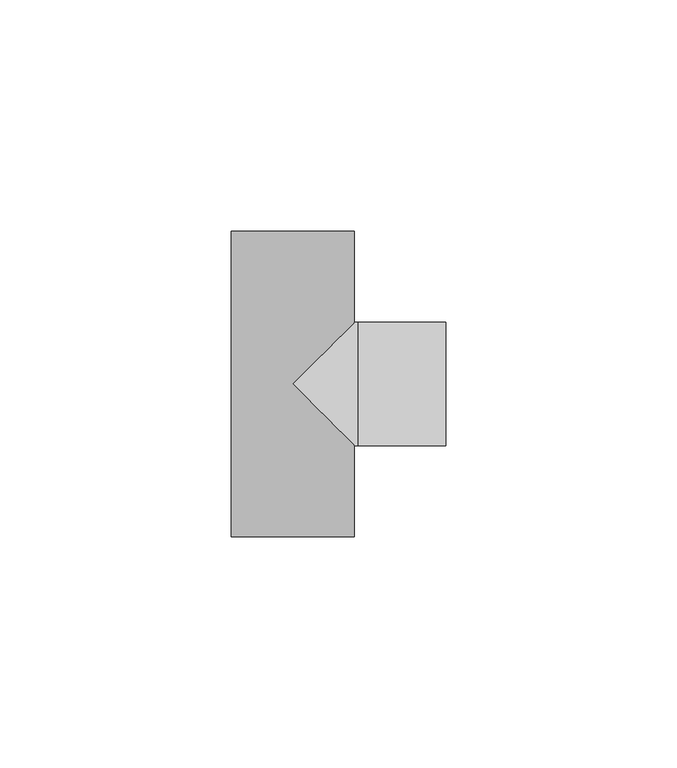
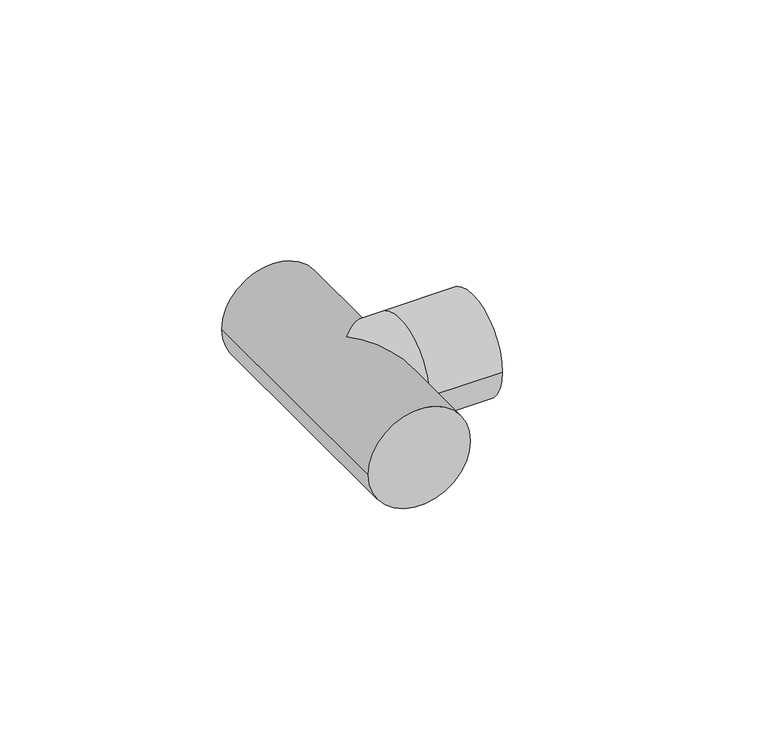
"""IFC4 building model written with IfcOpenShell, lengths in millimetres: pipe fitting geometry, 01051003 : Tes 90º."""

import ifcopenshell
import ifcopenshell.guid

model = None  # the IFC model being written
_history = None  # IfcOwnerHistory: only IFC2X3 demands one
_inside = {}  # id of a spatial element -> (the spatial element, [elements in it])
_under = {}  # id of a project, library or spatial element -> (it, [spatial elements below it])
_declared = {}  # id of a project -> (the project, [libraries it declares])
_typed = {}  # id of a type object -> (the type object, [elements of that type])
_made_of = {}  # id of a material, layer set ... -> (it, [elements and type objects made of it])


def new_model(schema):
    """Start an empty IFC model of exactly this schema.

    Asked for "IFC4X3", IfcOpenShell would pick the latest addendum, in which some entities
    have other attributes; the version numbers below select the first issue.
    IFC2X3 requires an IfcOwnerHistory on every rooted entity: one is made here for all.
    """
    global model, _history
    if schema == "IFC4X3":
        model = ifcopenshell.file(schema_version=(4, 3, 0, 0))
    else:
        model = ifcopenshell.file(schema=schema)
    _inside.clear()
    _under.clear()
    _declared.clear()
    _typed.clear()
    _made_of.clear()
    _history = None
    if model.schema == "IFC2X3":
        org = make("IfcOrganization", Name="unknown")
        user = make(
            "IfcPersonAndOrganization",
            ThePerson=make("IfcPerson", FamilyName="unknown"),
            TheOrganization=org,
        )
        app = make(
            "IfcApplication",
            ApplicationDeveloper=org,
            Version="unknown",
            ApplicationFullName="unknown",
            ApplicationIdentifier="unknown",
        )
        _history = make(
            "IfcOwnerHistory",
            OwningUser=user,
            OwningApplication=app,
            ChangeAction="ADDED",
            CreationDate=0,
        )
    return model


def make(cls, **values):
    """One entity of the class cls with the attributes given. An attribute that is None is left unset."""
    return model.create_entity(
        cls, **{name: value for name, value in values.items() if value is not None}
    )


def rooted(cls, **values):
    """An entity with a GlobalId (a new one), such as an element, a storey or a relation."""
    return make(cls, GlobalId=ifcopenshell.guid.new(), OwnerHistory=_history, **values)


def si_unit(unit_type, name, prefix=None):
    """IfcSIUnit, for example si_unit("LENGTHUNIT", "METRE", prefix="MILLI")."""
    return make("IfcSIUnit", UnitType=unit_type, Prefix=prefix, Name=name)


def assignment(units):
    """IfcUnitAssignment: the units of a project."""
    return None if units is None else make("IfcUnitAssignment", Units=units)


def point(xyz):
    """IfcCartesianPoint."""
    return None if xyz is None else make("IfcCartesianPoint", Coordinates=xyz)


def direction(xyz):
    """IfcDirection."""
    return None if xyz is None else make("IfcDirection", DirectionRatios=xyz)


def frame(location, z_axis=None, x_axis=None):
    """IfcAxis2Placement3D, a coordinate frame: its origin and axes. An axis left out is left unset."""
    return make(
        "IfcAxis2Placement3D",
        Location=point(location),
        Axis=direction(z_axis),
        RefDirection=direction(x_axis),
    )


def origin():
    """The frame at (0, 0, 0) with its axes left unset."""
    return frame((0.0, 0.0, 0.0))


def place(relative_to, where):
    """IfcLocalPlacement: puts the frame where relative to a parent placement (None: the world)."""
    return make(
        "IfcLocalPlacement", PlacementRelTo=relative_to, RelativePlacement=where
    )


def context(
    kind, dimensions, precision=None, world=None, true_north=None, identifier=None
):
    """IfcGeometricRepresentationContext, for example the 3D "Model" context."""
    return make(
        "IfcGeometricRepresentationContext",
        ContextIdentifier=identifier,
        ContextType=kind,
        CoordinateSpaceDimension=dimensions,
        Precision=precision,
        WorldCoordinateSystem=world,
        TrueNorth=true_north,
    )


def project(units=None, contexts=None):
    """IfcProject with its units and contexts."""
    return rooted(
        "IfcProject",
        Name="project",
        RepresentationContexts=contexts,
        UnitsInContext=assignment(units),
    )


def spatial(cls, under=None, at=None, **own):
    """A site, building, storey or space (cls), placed at a placement, below another one or the project."""
    s = rooted(cls, ObjectPlacement=at, **own)
    if under is not None:
        _under.setdefault(under.id(), (under, []))[1].append(s)
    return s


def circle_curve(where, radius):
    """IfcCircle in the frame where."""
    return make("IfcCircle", Position=where, Radius=radius)


def ellipse_curve(where, semi_axis1, semi_axis2):
    """IfcEllipse in the frame where."""
    return make(
        "IfcEllipse", Position=where, SemiAxis1=semi_axis1, SemiAxis2=semi_axis2
    )


def shape(context_of_items, identifier, shape_type, items):
    """IfcShapeRepresentation: the items that make up one representation, for example the "Body"."""
    return make(
        "IfcShapeRepresentation",
        ContextOfItems=context_of_items,
        RepresentationIdentifier=identifier,
        RepresentationType=shape_type,
        Items=items,
    )


def source(mapping_origin, context_of_items, identifier, shape_type, items):
    """IfcRepresentationMap: a shape defined once, which mapped items show again and again."""
    return make(
        "IfcRepresentationMap",
        MappingOrigin=mapping_origin,
        MappedRepresentation=shape(context_of_items, identifier, shape_type, items),
    )


def transform(
    local_origin,
    x_axis=None,
    y_axis=None,
    z_axis=None,
    scale=None,
    scale2=None,
    scale3=None,
    uniform=True,
):
    """IfcCartesianTransformationOperator3D, or its non-uniform kind. x_axis, y_axis, z_axis: its Axis1, 2, 3."""
    if uniform:
        return make(
            "IfcCartesianTransformationOperator3D",
            Axis1=direction(x_axis),
            Axis2=direction(y_axis),
            LocalOrigin=point(local_origin),
            Scale=scale,
            Axis3=direction(z_axis),
        )
    return make(
        "IfcCartesianTransformationOperator3DnonUniform",
        Axis1=direction(x_axis),
        Axis2=direction(y_axis),
        LocalOrigin=point(local_origin),
        Scale=scale,
        Axis3=direction(z_axis),
        Scale2=scale2,
        Scale3=scale3,
    )


def mapped(mapping_source, mapping_target):
    """IfcMappedItem: shows the shape of a source again, moved by a transform."""
    return make(
        "IfcMappedItem", MappingSource=mapping_source, MappingTarget=mapping_target
    )


def made_of(thing, what):
    """Note that an element or type object is made of a material, layer set ...; save() writes the relation."""
    if what is not None:
        _made_of.setdefault(what.id(), (what, []))[1].append(thing)
    return thing


def element(
    cls,
    number,
    at=None,
    inside=None,
    cuts=None,
    type_object=None,
    material=None,
    context=None,
    identifier="Body",
    shape_type=None,
    held_by="IfcProductDefinitionShape",
    body=None,
    shapes=None,
    **own,
):
    """One element of the class cls, such as IfcWall. Its Tag is "e" and its number.

    at: its placement. inside: the storey or other place that contains it. cuts: it is an
    opening in that element (IfcRelVoidsElement). A single representation is given by context,
    identifier, shape_type and body (its items); several are given by shapes. held_by: the class
    of the entity that holds the representations. save() writes the other relations.
    """
    e = rooted(cls, Tag="e%d" % number, ObjectPlacement=at, **own)
    if body is not None:
        shapes = [shape(context, identifier, shape_type, body)]
    if shapes is not None:
        e.Representation = make(held_by, Representations=shapes)
    if inside is not None:
        _inside.setdefault(inside.id(), (inside, []))[1].append(e)
    if cuts is not None:
        rooted(
            "IfcRelVoidsElement", RelatingBuildingElement=cuts, RelatedOpeningElement=e
        )
    if type_object is not None:
        _typed.setdefault(type_object.id(), (type_object, []))[1].append(e)
    return made_of(e, material)


def aggregate(whole, parts):
    """IfcRelAggregates: a whole, such as a stair, and the parts it consists of."""
    return rooted("IfcRelAggregates", RelatingObject=whole, RelatedObjects=parts)


def save(model, path):
    """Write the relations noted so far, then the file.

    IfcRelAggregates (storeys below a building ...), IfcRelContainedInSpatialStructure (elements
    in a storey), IfcRelDefinesByType, IfcRelAssociatesMaterial and IfcRelDeclares: one each for
    every whole, place, type object, material and project.
    """
    for whole, parts in _under.values():
        aggregate(whole, parts)
    for where, things in _inside.values():
        rooted(
            "IfcRelContainedInSpatialStructure",
            RelatedElements=things,
            RelatingStructure=where,
        )
    for kind, things in _typed.values():
        rooted("IfcRelDefinesByType", RelatedObjects=things, RelatingType=kind)
    for what, things in _made_of.values():
        rooted("IfcRelAssociatesMaterial", RelatedObjects=things, RelatingMaterial=what)
    for by, libraries in _declared.values():
        rooted("IfcRelDeclares", RelatingContext=by, RelatedDefinitions=libraries)
    model.write(path)


def plane_surface(at):
    """IfcPlane: the flat surface through the origin of the frame at, square to its z axis."""
    return make("IfcPlane", Position=at)


def cylinder_surface(at, radius):
    """IfcCylindricalSurface: all points at the distance radius from the z axis of the frame at."""
    return make("IfcCylindricalSurface", Position=at, Radius=radius)


def advanced_brep(points, edges, surfaces, faces):
    """IfcAdvancedBrep: a solid bounded by faces that lie on surfaces and meet in shared edges.

    An edge is (start, end): straight between two places in points (the first is 0);
    or (start, end, curve); or (start, end, curve, False) where it runs against its curve.
    A face is (place in surfaces, loops), or (place, loops, False) where it looks against
    its surface's normal. A loop lists edges by number (the first is 1), with a minus sign
    where the edge is run from its end to its start. The first loop is the outer one.
    """
    corners = [point(p) for p in points]
    vertices = [make("IfcVertexPoint", VertexGeometry=c) for c in corners]
    made = []
    for start, end, *more in edges:
        made.append(
            make(
                "IfcEdgeCurve",
                EdgeStart=vertices[start],
                EdgeEnd=vertices[end],
                EdgeGeometry=more[0] if more else make("IfcPolyline", Points=[corners[start], corners[end]]),
                SameSense=more[1] if len(more) > 1 else True,
            )
        )
    hull = []
    for where, loops, *sense in faces:
        bounds = []
        for j, loop in enumerate(loops):
            ring = [make("IfcOrientedEdge", EdgeElement=made[abs(k) - 1], Orientation=k > 0) for k in loop]
            bounds.append(
                make(
                    "IfcFaceOuterBound" if j == 0 else "IfcFaceBound",
                    Bound=make("IfcEdgeLoop", EdgeList=ring),
                    Orientation=True,
                )
            )
        hull.append(make("IfcAdvancedFace", Bounds=bounds, FaceSurface=surfaces[where], SameSense=sense[0] if sense else True))
    return make("IfcAdvancedBrep", Outer=make("IfcClosedShell", CfsFaces=hull))


def pipe_fitting_c8f179ba(model_context):
    return source(origin(), model_context, "Body", "AdvancedBrep", [
        advanced_brep(
        [(-13.3, 33.0, 0.0), (13.3, 33.0, 0.0), (-13.3, -33.0, 0.0), (13.3, -33.0, 0.0), (13.3, -13.3, 0.0), (0.0, 0.0, 13.3), (13.3, 13.3, 0.0), (0.0, 0.0, -13.3), (33.0, 13.3, 0.0), (33.0, -13.3, 0.0), (14.0, -13.3, 0.0), (14.0, 13.3, 0.0)],
        [
            (0, 1, circle_curve(frame((0.0, 33.0, 0.0), z_axis=(0.0, 1.0, 0.0), x_axis=(1.0, 0.0, 0.0)), 13.3)),
            (1, 0, circle_curve(frame((0.0, 33.0, 0.0), z_axis=(0.0, 1.0, 0.0), x_axis=(1.0, 0.0, 0.0)), 13.3)),
            (2, 3, circle_curve(frame((0.0, -33.0, 0.0), z_axis=(0.0, -1.0, 0.0), x_axis=(1.0, 0.0, 0.0)), 13.3)),
            (3, 2, circle_curve(frame((0.0, -33.0, 0.0), z_axis=(0.0, -1.0, 0.0), x_axis=(1.0, 0.0, 0.0)), 13.3)),
            (0, 2),
            (3, 4),
            (4, 5, ellipse_curve(frame((0.0, 0.0, 0.0), z_axis=(-0.7071067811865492, -0.7071067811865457, 0.0), x_axis=(-0.7071067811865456, 0.7071067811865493, 0.0)), 18.8090404, 13.3)),
            (5, 6, ellipse_curve(frame((0.0, 0.0, 0.0), z_axis=(-0.7071067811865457, 0.7071067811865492, 0.0), x_axis=(0.7071067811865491, 0.7071067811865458, 0.0)), 18.8090404, 13.3)),
            (6, 1),
            (6, 7, ellipse_curve(frame((0.0, 0.0, 0.0), z_axis=(-0.7071067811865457, 0.7071067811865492, 0.0), x_axis=(0.7071067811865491, 0.7071067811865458, 0.0)), 18.8090404, 13.3)),
            (7, 4, ellipse_curve(frame((0.0, 0.0, 0.0), z_axis=(-0.7071067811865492, -0.7071067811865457, 0.0), x_axis=(-0.7071067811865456, 0.7071067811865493, 0.0)), 18.8090404, 13.3)),
            (8, 9, circle_curve(frame((33.0, 0.0, 0.0), z_axis=(1.0, 0.0, 0.0), x_axis=(0.0, -1.0, 0.0)), 13.3)),
            (9, 8, circle_curve(frame((33.0, 0.0, 0.0), z_axis=(1.0, 0.0, 0.0), x_axis=(0.0, -1.0, 0.0)), 13.3)),
            (10, 11, circle_curve(frame((14.0, 0.0, 0.0), z_axis=(-1.0, 0.0, 0.0), x_axis=(0.0, -1.0, 0.0)), 13.3)),
            (11, 6),
            (4, 10),
            (11, 10, circle_curve(frame((14.0, 0.0, 0.0), z_axis=(-1.0, 0.0, 0.0), x_axis=(0.0, -1.0, 0.0)), 13.3)),
            (8, 11),
            (10, 9),
        ],
        [
            plane_surface(frame((0.0, 33.0, 0.0), z_axis=(0.0, 1.0, 0.0), x_axis=(0.0, 0.0, 1.0))),
            plane_surface(frame((0.0, -33.0, 0.0), z_axis=(0.0, -1.0, 0.0), x_axis=(0.0, 0.0, 1.0))),
            cylinder_surface(frame((0.0, 33.0, 0.0), z_axis=(0.0, 1.0, 0.0), x_axis=(1.0, 0.0, 0.0)), 13.3),
            plane_surface(frame((33.0, 0.0, 0.0), z_axis=(1.0, 0.0, 0.0), x_axis=(0.0, 0.0, 1.0))),
            cylinder_surface(frame((14.0, 0.0, 0.0), z_axis=(1.0, 0.0, 0.0), x_axis=(0.0, -1.0, 0.0)), 13.3),
            cylinder_surface(frame((33.0, 0.0, 0.0), z_axis=(1.0, 0.0, 0.0), x_axis=(0.0, -1.0, 0.0)), 13.3),
        ],
        [
            (0, [[1, 2]]),
            (1, [[3, 4]]),
            (2, [[-1, 5, -4, 6, 7, 8, 9]]),
            (2, [[-2, -9, 10, 11, -6, -3, -5]]),
            (3, [[12, 13]]),
            (4, [[14, 15, -8, -7, 16]]),
            (4, [[17, -16, -11, -10, -15]]),
            (5, [[-12, 18, -14, 19]]),
            (5, [[-13, -19, -17, -18]]),
        ],
    ),
    ])


if __name__ == "__main__":
    model = new_model("IFC4")
    model_context = context("Model", 3, world=origin())
    ifc_project = project(units=[si_unit("LENGTHUNIT", "METRE", prefix="MILLI")], contexts=[model_context])
    site = spatial("IfcSite", under=ifc_project)
    building = spatial("IfcBuilding", under=site)
    placement = place(None, origin())
    pipe_fitting_shape = pipe_fitting_c8f179ba(model_context)
    element("IfcPipeFitting", 1, ObjectType="01051003 : Tes 90º", at=placement, inside=building, context=model_context, shape_type="MappedRepresentation", body=[
        mapped(pipe_fitting_shape, transform((0.0, 0.0, 0.0), x_axis=(1.0, 0.0, 0.0), y_axis=(0.0, 1.0, 0.0), z_axis=(0.0, 0.0, 1.0))),
    ])
    save(model, "model.ifc")
